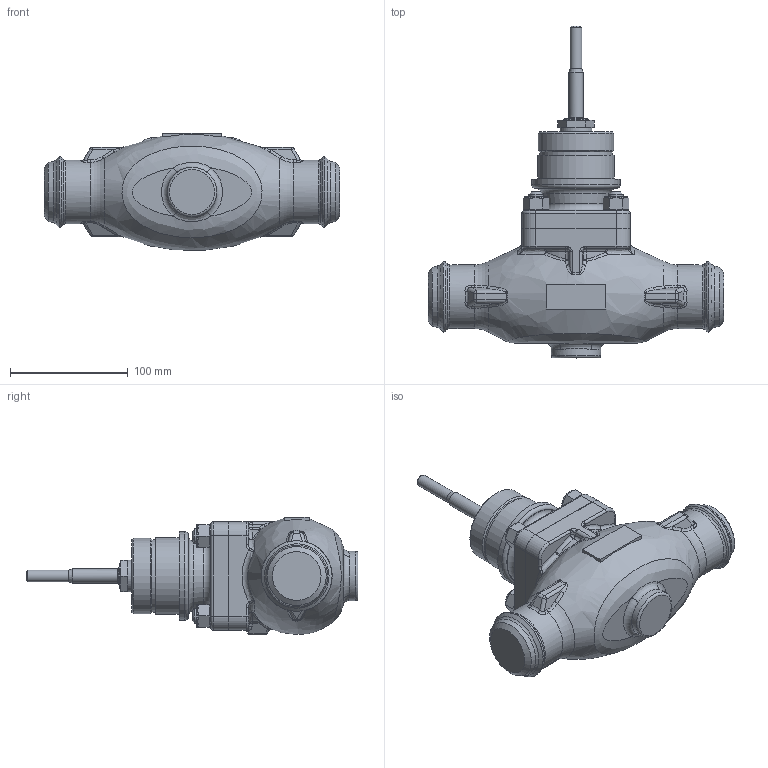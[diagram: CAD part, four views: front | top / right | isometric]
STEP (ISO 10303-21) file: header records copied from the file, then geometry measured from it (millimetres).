
FILE_DESCRIPTION(/* description */ (''),/* implementation_level */ '2;1');
FILE_NAME(/* name */ 'CV3xx_NPS_1_1_2_privarovaci.stp',/* time_stamp */ '2014-01-07T07:28:52+01:00',/* author */ (''),/* organization */ ('LDM'),/* preprocessor_version */ 'ST-DEVELOPER v11',/* originating_system */ 'SIEMENS PLM Software NX 7.0',/* authorisation */ '');
FILE_SCHEMA (('CONFIG_CONTROL_DESIGN'));
Length unit declared in the file: millimetre
Products named in the file (1): adamED63yt0h
Bounding box: 251 x 282 x 100 mm (x, y, z)
Volume: 1637571.1 mm3; surface area: 112839.3 mm2
Topology: 1 solids, 5 shells, 435 faces, 980 edges, 559 vertices
Faces by surface type: cylinder 107, plane 105, bspline 92, cone 82, torus 33, sphere 16
Full cylindrical faces by diameter (mm): 10 x1, 12 x13, 14 x1, 18 x1, 19 x8, 21 x1, 27 x1, 42 x1, 54 x2, 60 x2, 61.6 x1, 64 x1, 65 x1, 75 x1, 76 x1
Entity records: 13333 total; most frequent: CARTESIAN_POINT 4768, ORIENTED_EDGE 1710, DIRECTION 1704, EDGE_CURVE 855, AXIS2_PLACEMENT_3D 756, EDGE_LOOP 546, VERTEX_POINT 525, ADVANCED_FACE 435
